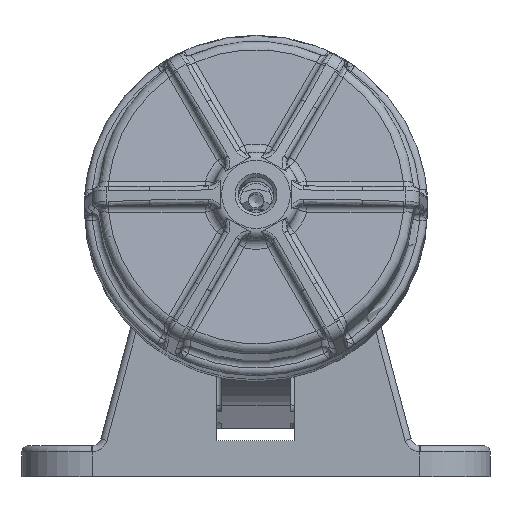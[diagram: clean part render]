
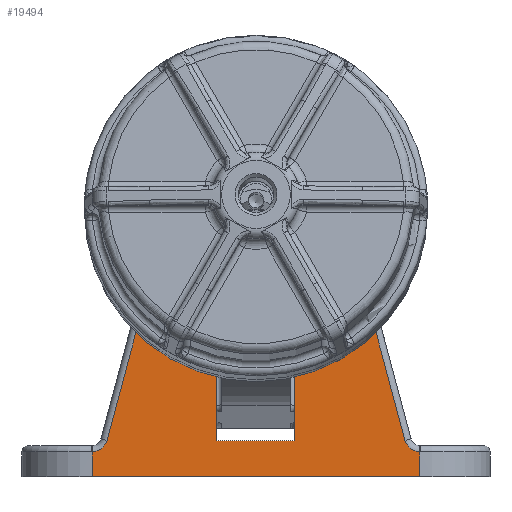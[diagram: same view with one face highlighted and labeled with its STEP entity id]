
A CAD part, front view. The second image highlights one B-rep face of the part: STEP entity #19494.
In plain terms, the highlighted planar face has unit normal (0, -1, 0).
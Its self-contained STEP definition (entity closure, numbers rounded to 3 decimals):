
#1545=CIRCLE('',#21268,5.);
#1546=CIRCLE('',#21269,5.);
#2576=FACE_OUTER_BOUND('',#3722,.T.);
#3722=EDGE_LOOP('',(#15037,#15038,#15039,#15040,#15041,#15042,#15043,#15044,
#15045,#15046,#15047,#15048,#15049,#15050,#15051,#15052,#15053,#15054));
#5074=LINE('',#34719,#6243);
#5075=LINE('',#34729,#6244);
#5076=LINE('',#34731,#6245);
#5077=LINE('',#34735,#6246);
#5078=LINE('',#34737,#6247);
#5079=LINE('',#34739,#6248);
#5080=LINE('',#34741,#6249);
#5081=LINE('',#34743,#6250);
#5082=LINE('',#34745,#6251);
#5083=LINE('',#34747,#6252);
#5084=LINE('',#34749,#6253);
#5085=LINE('',#34751,#6254);
#5086=LINE('',#34753,#6255);
#5087=LINE('',#34755,#6256);
#5088=LINE('',#34757,#6257);
#5089=LINE('',#34758,#6258);
#6243=VECTOR('',#25430,10.);
#6244=VECTOR('',#25441,10.);
#6245=VECTOR('',#25442,10.);
#6246=VECTOR('',#25445,10.);
#6247=VECTOR('',#25446,10.);
#6248=VECTOR('',#25447,10.);
#6249=VECTOR('',#25448,10.);
#6250=VECTOR('',#25449,10.);
#6251=VECTOR('',#25450,10.);
#6252=VECTOR('',#25451,10.);
#6253=VECTOR('',#25452,10.);
#6254=VECTOR('',#25453,10.);
#6255=VECTOR('',#25454,10.);
#6256=VECTOR('',#25455,10.);
#6257=VECTOR('',#25456,10.);
#6258=VECTOR('',#25457,10.);
#8151=VERTEX_POINT('',#34716);
#8152=VERTEX_POINT('',#34718);
#8155=VERTEX_POINT('',#34726);
#8156=VERTEX_POINT('',#34727);
#8157=VERTEX_POINT('',#34730);
#8158=VERTEX_POINT('',#34732);
#8159=VERTEX_POINT('',#34734);
#8160=VERTEX_POINT('',#34736);
#8161=VERTEX_POINT('',#34738);
#8162=VERTEX_POINT('',#34740);
#8163=VERTEX_POINT('',#34742);
#8164=VERTEX_POINT('',#34744);
#8165=VERTEX_POINT('',#34746);
#8166=VERTEX_POINT('',#34748);
#8167=VERTEX_POINT('',#34750);
#8168=VERTEX_POINT('',#34752);
#8169=VERTEX_POINT('',#34754);
#8170=VERTEX_POINT('',#34756);
#10572=EDGE_CURVE('',#8151,#8152,#5074,.T.);
#10576=EDGE_CURVE('',#8155,#8156,#1545,.T.);
#10577=EDGE_CURVE('',#8152,#8155,#5075,.T.);
#10578=EDGE_CURVE('',#8151,#8157,#5076,.T.);
#10579=EDGE_CURVE('',#8158,#8157,#1546,.T.);
#10580=EDGE_CURVE('',#8159,#8158,#5077,.T.);
#10581=EDGE_CURVE('',#8159,#8160,#5078,.T.);
#10582=EDGE_CURVE('',#8160,#8161,#5079,.T.);
#10583=EDGE_CURVE('',#8161,#8162,#5080,.T.);
#10584=EDGE_CURVE('',#8162,#8163,#5081,.T.);
#10585=EDGE_CURVE('',#8163,#8164,#5082,.T.);
#10586=EDGE_CURVE('',#8164,#8165,#5083,.T.);
#10587=EDGE_CURVE('',#8165,#8166,#5084,.T.);
#10588=EDGE_CURVE('',#8166,#8167,#5085,.T.);
#10589=EDGE_CURVE('',#8167,#8168,#5086,.T.);
#10590=EDGE_CURVE('',#8168,#8169,#5087,.T.);
#10591=EDGE_CURVE('',#8169,#8170,#5088,.T.);
#10592=EDGE_CURVE('',#8156,#8170,#5089,.T.);
#15037=ORIENTED_EDGE('',*,*,#10576,.F.);
#15038=ORIENTED_EDGE('',*,*,#10577,.F.);
#15039=ORIENTED_EDGE('',*,*,#10572,.F.);
#15040=ORIENTED_EDGE('',*,*,#10578,.T.);
#15041=ORIENTED_EDGE('',*,*,#10579,.F.);
#15042=ORIENTED_EDGE('',*,*,#10580,.F.);
#15043=ORIENTED_EDGE('',*,*,#10581,.T.);
#15044=ORIENTED_EDGE('',*,*,#10582,.T.);
#15045=ORIENTED_EDGE('',*,*,#10583,.T.);
#15046=ORIENTED_EDGE('',*,*,#10584,.T.);
#15047=ORIENTED_EDGE('',*,*,#10585,.T.);
#15048=ORIENTED_EDGE('',*,*,#10586,.T.);
#15049=ORIENTED_EDGE('',*,*,#10587,.T.);
#15050=ORIENTED_EDGE('',*,*,#10588,.T.);
#15051=ORIENTED_EDGE('',*,*,#10589,.T.);
#15052=ORIENTED_EDGE('',*,*,#10590,.T.);
#15053=ORIENTED_EDGE('',*,*,#10591,.T.);
#15054=ORIENTED_EDGE('',*,*,#10592,.F.);
#17805=PLANE('',#21267);
#19494=ADVANCED_FACE('',(#2576),#17805,.T.);
#21267=AXIS2_PLACEMENT_3D('',#34725,#25437,#25438);
#21268=AXIS2_PLACEMENT_3D('',#34728,#25439,#25440);
#21269=AXIS2_PLACEMENT_3D('',#34733,#25443,#25444);
#25430=DIRECTION('',(-1.,0.,0.));
#25437=DIRECTION('center_axis',(0.,-1.,0.));
#25438=DIRECTION('ref_axis',(0.,0.,
-1.));
#25439=DIRECTION('center_axis',(0.,-1.,0.));
#25440=DIRECTION('ref_axis',(0.619,0.,-0.785));
#25441=DIRECTION('',(0.,0.,1.));
#25442=DIRECTION('',(0.,0.,1.));
#25443=DIRECTION('center_axis',(0.,-1.,0.));
#25444=DIRECTION('ref_axis',(-0.619,0.,-0.785));
#25445=DIRECTION('',(0.259,0.,-0.966));
#25446=DIRECTION('',(0.,0.,1.));
#25447=DIRECTION('',(-1.,0.,0.));
#25448=DIRECTION('',(-1.,0.,0.));
#25449=DIRECTION('',(-1.,0.,0.));
#25450=DIRECTION('',(0.,0.,-1.));
#25451=DIRECTION('',(-1.,0.,0.));
#25452=DIRECTION('',(0.,0.,1.));
#25453=DIRECTION('',(-1.,0.,0.));
#25454=DIRECTION('',(-1.,0.,0.));
#25455=DIRECTION('',(-1.,0.,0.));
#25456=DIRECTION('',(0.,0.,-1.));
#25457=DIRECTION('',(0.259,0.,0.966));
#34716=CARTESIAN_POINT('',(52.5,-13.5,0.35));
#34718=CARTESIAN_POINT('',(-52.5,-13.5,0.35));
#34719=CARTESIAN_POINT('',(52.5,-13.5,0.35));
#34725=CARTESIAN_POINT('Origin',(52.5,-13.5,0.35));
#34726=CARTESIAN_POINT('',(-52.5,-13.5,8.351));
#34727=CARTESIAN_POINT('',(-47.748,-13.5,12.056));
#34728=CARTESIAN_POINT('Origin',(-52.578,-13.5,13.35));
#34729=CARTESIAN_POINT('',(-52.5,-13.5,0.35));
#34730=CARTESIAN_POINT('',(52.5,-13.5,8.351));
#34731=CARTESIAN_POINT('',(52.5,-13.5,0.35));
#34732=CARTESIAN_POINT('',(47.748,-13.5,12.056));
#34733=CARTESIAN_POINT('Origin',(52.578,-13.5,13.35));
#34734=CARTESIAN_POINT('',(27.5,-13.5,87.623));
#34735=CARTESIAN_POINT('',(38.28,-13.5,47.389));
#34736=CARTESIAN_POINT('',(27.5,-13.5,110.35));
#34737=CARTESIAN_POINT('',(27.5,-13.5,55.35));
#34738=CARTESIAN_POINT('',(27.,-13.5,110.35));
#34739=CARTESIAN_POINT('',(52.5,-13.5,110.35));
#34740=CARTESIAN_POINT('',(14.,-13.5,110.35));
#34741=CARTESIAN_POINT('',(52.5,-13.5,110.35));
#34742=CARTESIAN_POINT('',(12.5,-13.5,110.35));
#34743=CARTESIAN_POINT('',(52.5,-13.5,110.35));
#34744=CARTESIAN_POINT('',(12.5,-13.5,11.85));
#34745=CARTESIAN_POINT('',(12.5,-13.5,6.1));
#34746=CARTESIAN_POINT('',(-12.5,-13.5,11.85));
#34747=CARTESIAN_POINT('',(27.955,-13.5,11.85));
#34748=CARTESIAN_POINT('',(-12.5,-13.5,110.35));
#34749=CARTESIAN_POINT('',(-12.5,-13.5,55.35));
#34750=CARTESIAN_POINT('',(-14.,-13.5,110.35));
#34751=CARTESIAN_POINT('',(52.5,-13.5,110.35));
#34752=CARTESIAN_POINT('',(-27.,-13.5,110.35));
#34753=CARTESIAN_POINT('',(52.5,-13.5,110.35));
#34754=CARTESIAN_POINT('',(-27.5,-13.5,110.35));
#34755=CARTESIAN_POINT('',(52.5,-13.5,110.35));
#34756=CARTESIAN_POINT('',(-27.5,-13.5,87.623));
#34757=CARTESIAN_POINT('',(-27.5,-13.5,47.85));
#34758=CARTESIAN_POINT('',(-45.854,-13.5,19.126));
